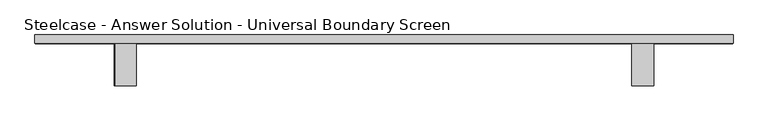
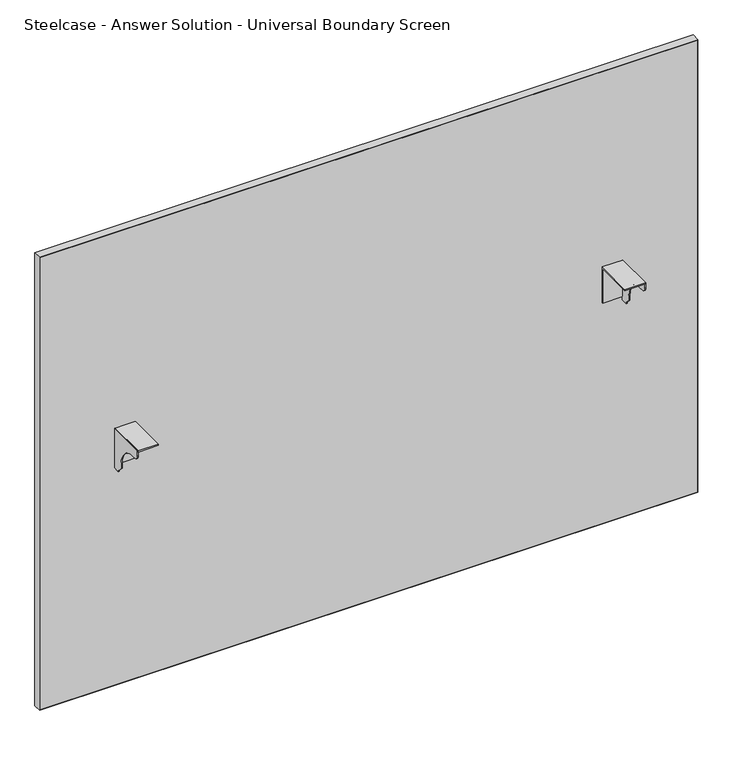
"""IFC4 building model written with IfcOpenShell, lengths in millimetres: furniture geometry, Steelcase - Answer Solution - Universal Boundary Screen : 48H x 66W."""

import ifcopenshell
import ifcopenshell.guid

model = None  # the IFC model being written
_history = None  # IfcOwnerHistory: only IFC2X3 demands one
_inside = {}  # id of a spatial element -> (the spatial element, [elements in it])
_under = {}  # id of a project, library or spatial element -> (it, [spatial elements below it])
_declared = {}  # id of a project -> (the project, [libraries it declares])
_typed = {}  # id of a type object -> (the type object, [elements of that type])
_made_of = {}  # id of a material, layer set ... -> (it, [elements and type objects made of it])


def new_model(schema):
    """Start an empty IFC model of exactly this schema.

    Asked for "IFC4X3", IfcOpenShell would pick the latest addendum, in which some entities
    have other attributes; the version numbers below select the first issue.
    IFC2X3 requires an IfcOwnerHistory on every rooted entity: one is made here for all.
    """
    global model, _history
    if schema == "IFC4X3":
        model = ifcopenshell.file(schema_version=(4, 3, 0, 0))
    else:
        model = ifcopenshell.file(schema=schema)
    _inside.clear()
    _under.clear()
    _declared.clear()
    _typed.clear()
    _made_of.clear()
    _history = None
    if model.schema == "IFC2X3":
        org = make("IfcOrganization", Name="unknown")
        user = make(
            "IfcPersonAndOrganization",
            ThePerson=make("IfcPerson", FamilyName="unknown"),
            TheOrganization=org,
        )
        app = make(
            "IfcApplication",
            ApplicationDeveloper=org,
            Version="unknown",
            ApplicationFullName="unknown",
            ApplicationIdentifier="unknown",
        )
        _history = make(
            "IfcOwnerHistory",
            OwningUser=user,
            OwningApplication=app,
            ChangeAction="ADDED",
            CreationDate=0,
        )
    return model


def make(cls, **values):
    """One entity of the class cls with the attributes given. An attribute that is None is left unset."""
    return model.create_entity(
        cls, **{name: value for name, value in values.items() if value is not None}
    )


def rooted(cls, **values):
    """An entity with a GlobalId (a new one), such as an element, a storey or a relation."""
    return make(cls, GlobalId=ifcopenshell.guid.new(), OwnerHistory=_history, **values)


def si_unit(unit_type, name, prefix=None):
    """IfcSIUnit, for example si_unit("LENGTHUNIT", "METRE", prefix="MILLI")."""
    return make("IfcSIUnit", UnitType=unit_type, Prefix=prefix, Name=name)


def assignment(units):
    """IfcUnitAssignment: the units of a project."""
    return None if units is None else make("IfcUnitAssignment", Units=units)


def point(xyz):
    """IfcCartesianPoint."""
    return None if xyz is None else make("IfcCartesianPoint", Coordinates=xyz)


def direction(xyz):
    """IfcDirection."""
    return None if xyz is None else make("IfcDirection", DirectionRatios=xyz)


def frame(location, z_axis=None, x_axis=None):
    """IfcAxis2Placement3D, a coordinate frame: its origin and axes. An axis left out is left unset."""
    return make(
        "IfcAxis2Placement3D",
        Location=point(location),
        Axis=direction(z_axis),
        RefDirection=direction(x_axis),
    )


def frame_2d(location, x_axis=None):
    """IfcAxis2Placement2D, a coordinate frame in the plane: its origin and x axis."""
    return make(
        "IfcAxis2Placement2D", Location=point(location), RefDirection=direction(x_axis)
    )


def origin():
    """The frame at (0, 0, 0) with its axes left unset."""
    return frame((0.0, 0.0, 0.0))


def place(relative_to, where):
    """IfcLocalPlacement: puts the frame where relative to a parent placement (None: the world)."""
    return make(
        "IfcLocalPlacement", PlacementRelTo=relative_to, RelativePlacement=where
    )


def context(
    kind, dimensions, precision=None, world=None, true_north=None, identifier=None
):
    """IfcGeometricRepresentationContext, for example the 3D "Model" context."""
    return make(
        "IfcGeometricRepresentationContext",
        ContextIdentifier=identifier,
        ContextType=kind,
        CoordinateSpaceDimension=dimensions,
        Precision=precision,
        WorldCoordinateSystem=world,
        TrueNorth=true_north,
    )


def project(units=None, contexts=None):
    """IfcProject with its units and contexts."""
    return rooted(
        "IfcProject",
        Name="project",
        RepresentationContexts=contexts,
        UnitsInContext=assignment(units),
    )


def spatial(cls, under=None, at=None, **own):
    """A site, building, storey or space (cls), placed at a placement, below another one or the project."""
    s = rooted(cls, ObjectPlacement=at, **own)
    if under is not None:
        _under.setdefault(under.id(), (under, []))[1].append(s)
    return s


def polyline(points):
    """IfcPolyline through the points."""
    return make("IfcPolyline", Points=[point(p) for p in points])


def circle_curve(where, radius):
    """IfcCircle in the frame where."""
    return make("IfcCircle", Position=where, Radius=radius)


def trimmed(basis, trim1, trim2, sense, master):
    """IfcTrimmedCurve: the piece of a basis curve between two trims."""
    return make(
        "IfcTrimmedCurve",
        BasisCurve=basis,
        Trim1=trim1,
        Trim2=trim2,
        SenseAgreement=sense,
        MasterRepresentation=master,
    )


def segment(curve, same_sense, transition):
    """IfcCompositeCurveSegment."""
    return make(
        "IfcCompositeCurveSegment",
        Transition=transition,
        SameSense=same_sense,
        ParentCurve=curve,
    )


def composite_curve(segments, self_intersect=None):
    """IfcCompositeCurve: segments joined end to end."""
    return make("IfcCompositeCurve", Segments=segments, SelfIntersect=self_intersect)


def outline(outer, holes=None, kind="AREA"):
    """IfcArbitraryClosedProfileDef: a profile drawn as a closed curve; with holes, ...WithVoids."""
    if holes is None:
        return make("IfcArbitraryClosedProfileDef", ProfileType=kind, OuterCurve=outer)
    return make(
        "IfcArbitraryProfileDefWithVoids",
        ProfileType=kind,
        OuterCurve=outer,
        InnerCurves=holes,
    )


def extrude(swept, where, along, depth):
    """IfcExtrudedAreaSolid: the profile swept, set in the frame where, extruded along a direction by depth."""
    return make(
        "IfcExtrudedAreaSolid",
        SweptArea=swept,
        Position=where,
        ExtrudedDirection=direction(along),
        Depth=depth,
    )


def shape(context_of_items, identifier, shape_type, items):
    """IfcShapeRepresentation: the items that make up one representation, for example the "Body"."""
    return make(
        "IfcShapeRepresentation",
        ContextOfItems=context_of_items,
        RepresentationIdentifier=identifier,
        RepresentationType=shape_type,
        Items=items,
    )


def source(mapping_origin, context_of_items, identifier, shape_type, items):
    """IfcRepresentationMap: a shape defined once, which mapped items show again and again."""
    return make(
        "IfcRepresentationMap",
        MappingOrigin=mapping_origin,
        MappedRepresentation=shape(context_of_items, identifier, shape_type, items),
    )


def transform(
    local_origin,
    x_axis=None,
    y_axis=None,
    z_axis=None,
    scale=None,
    scale2=None,
    scale3=None,
    uniform=True,
):
    """IfcCartesianTransformationOperator3D, or its non-uniform kind. x_axis, y_axis, z_axis: its Axis1, 2, 3."""
    if uniform:
        return make(
            "IfcCartesianTransformationOperator3D",
            Axis1=direction(x_axis),
            Axis2=direction(y_axis),
            LocalOrigin=point(local_origin),
            Scale=scale,
            Axis3=direction(z_axis),
        )
    return make(
        "IfcCartesianTransformationOperator3DnonUniform",
        Axis1=direction(x_axis),
        Axis2=direction(y_axis),
        LocalOrigin=point(local_origin),
        Scale=scale,
        Axis3=direction(z_axis),
        Scale2=scale2,
        Scale3=scale3,
    )


def mapped(mapping_source, mapping_target):
    """IfcMappedItem: shows the shape of a source again, moved by a transform."""
    return make(
        "IfcMappedItem", MappingSource=mapping_source, MappingTarget=mapping_target
    )


def made_of(thing, what):
    """Note that an element or type object is made of a material, layer set ...; save() writes the relation."""
    if what is not None:
        _made_of.setdefault(what.id(), (what, []))[1].append(thing)
    return thing


def element(
    cls,
    number,
    at=None,
    inside=None,
    cuts=None,
    type_object=None,
    material=None,
    context=None,
    identifier="Body",
    shape_type=None,
    held_by="IfcProductDefinitionShape",
    body=None,
    shapes=None,
    **own,
):
    """One element of the class cls, such as IfcWall. Its Tag is "e" and its number.

    at: its placement. inside: the storey or other place that contains it. cuts: it is an
    opening in that element (IfcRelVoidsElement). A single representation is given by context,
    identifier, shape_type and body (its items); several are given by shapes. held_by: the class
    of the entity that holds the representations. save() writes the other relations.
    """
    e = rooted(cls, Tag="e%d" % number, ObjectPlacement=at, **own)
    if body is not None:
        shapes = [shape(context, identifier, shape_type, body)]
    if shapes is not None:
        e.Representation = make(held_by, Representations=shapes)
    if inside is not None:
        _inside.setdefault(inside.id(), (inside, []))[1].append(e)
    if cuts is not None:
        rooted(
            "IfcRelVoidsElement", RelatingBuildingElement=cuts, RelatedOpeningElement=e
        )
    if type_object is not None:
        _typed.setdefault(type_object.id(), (type_object, []))[1].append(e)
    return made_of(e, material)


def aggregate(whole, parts):
    """IfcRelAggregates: a whole, such as a stair, and the parts it consists of."""
    return rooted("IfcRelAggregates", RelatingObject=whole, RelatedObjects=parts)


def save(model, path):
    """Write the relations noted so far, then the file.

    IfcRelAggregates (storeys below a building ...), IfcRelContainedInSpatialStructure (elements
    in a storey), IfcRelDefinesByType, IfcRelAssociatesMaterial and IfcRelDeclares: one each for
    every whole, place, type object, material and project.
    """
    for whole, parts in _under.values():
        aggregate(whole, parts)
    for where, things in _inside.values():
        rooted(
            "IfcRelContainedInSpatialStructure",
            RelatedElements=things,
            RelatingStructure=where,
        )
    for kind, things in _typed.values():
        rooted("IfcRelDefinesByType", RelatedObjects=things, RelatingType=kind)
    for what, things in _made_of.values():
        rooted("IfcRelAssociatesMaterial", RelatedObjects=things, RelatingMaterial=what)
    for by, libraries in _declared.values():
        rooted("IfcRelDeclares", RelatingContext=by, RelatedDefinitions=libraries)
    model.write(path)


def steelcase_answer_solution_universal_boundary_screen_eb9aadaf(model_context):
    return source(origin(), model_context, "Body", "SweptSolid", [
        extrude(outline(polyline([(-103.1670434, 689.3558876), (-103.1670434, 692.1499758), (-1.5668826, 692.1499758), (-1.5668826, 595.5029317), (-4.1079736, 595.5029317), (-4.1079736, 689.3558876), (-103.1670434, 689.3558876)])), frame((1124.4336711, 0.0, 0.0), z_axis=(1.0, 0.0, 0.0), x_axis=(0.0, 1.0, 0.0)), (0.0, 0.0, 1.0), 53.3444116),
        extrude(outline(composite_curve([segment(polyline([(-103.1670434, 679.2814802), (-103.1670434, 692.1499758), (-1.5668826, 692.1499758), (-1.5668826, 586.9634093), (-19.8232934, 586.9634093), (-19.8232934, 589.7574248), (-32.0458032, 601.9799346), (-32.0458032, 615.7814802)]), True, "CONTINUOUS"), segment(trimmed(circle_curve(frame_2d((-82.8458032, 615.7814802)), 50.8), [point((-32.0458032, 615.7814802))], [point((-82.8458032, 666.5814802))], True, "CARTESIAN"), True, "CONTINUOUS"), segment(polyline([(-82.8458032, 666.5814802), (-90.4670434, 666.5814802)]), True, "CONTINUOUS"), segment(trimmed(circle_curve(frame_2d((-90.4670434, 679.2814802)), 12.7), [point((-90.4670434, 666.5814802))], [point((-103.1670434, 679.2814802))], False, "CARTESIAN"), True, "CONTINUOUS")], self_intersect=False)), frame((1175.2328959, 0.0, 0.0), z_axis=(1.0, 0.0, 0.0), x_axis=(0.0, 1.0, 0.0)), (0.0, 0.0, 1.0), 2.5451868),
        extrude(outline(polyline([(-103.1670434, 689.3558876), (-103.1670434, 692.1499758), (-1.5668826, 692.1499758), (-1.5668826, 595.5029317), (-4.1079736, 595.5029317), (-4.1079736, 689.3558876), (-103.1670434, 689.3558876)])), frame((-115.0767306, 0.0, 0.0), z_axis=(1.0, 0.0, 0.0), x_axis=(0.0, 1.0, 0.0)), (0.0, 0.0, 1.0), 50.7992249),
        extrude(outline(composite_curve([segment(polyline([(-103.1670434, 679.2814802), (-103.1670434, 692.1499758), (-1.5668826, 692.1499758), (-1.5668826, 586.9634093), (-19.8232934, 586.9634093), (-19.8232934, 589.7574248), (-32.0458032, 601.9799346), (-32.0458032, 615.7814802)]), True, "CONTINUOUS"), segment(trimmed(circle_curve(frame_2d((-82.8458032, 615.7814802)), 50.8), [point((-32.0458032, 615.7814802))], [point((-82.8458032, 666.5814802))], True, "CARTESIAN"), True, "CONTINUOUS"), segment(polyline([(-82.8458032, 666.5814802), (-90.4670434, 666.5814802)]), True, "CONTINUOUS"), segment(trimmed(circle_curve(frame_2d((-90.4670434, 679.2814802)), 12.7), [point((-90.4670434, 666.5814802))], [point((-103.1670434, 679.2814802))], False, "CARTESIAN"), True, "CONTINUOUS")], self_intersect=False)), frame((-117.6219173, 0.0, 0.0), z_axis=(1.0, 0.0, 0.0), x_axis=(0.0, 1.0, 0.0)), (0.0, 0.0, 1.0), 2.5451868),
        extrude(outline(polyline([(-307.1293422, 18.9055112), (1367.2855076, 18.9055112), (1367.2855076, -1.5668826), (-307.1293422, -1.5668826), (-307.1293422, 18.9055112)])), frame((0.0, 0.0, 1.016), z_axis=(0.0, 0.0, 1.0), x_axis=(1.0, 0.0, 0.0)), (0.0, 0.0, 1.0), 1217.1914249),
        extrude(outline(polyline([(1219.2, 1368.2780827), (1219.2, -308.1219173), (0.0, -308.1219173), (0.0, 1368.2780827), (1219.2, 1368.2780827)]), holes=[polyline([(1218.2074249, 1367.2855076), (1.016, 1367.2855076), (1.016, -307.1293422), (1218.2074249, -307.1293422), (1218.2074249, 1367.2855076)])]), frame((0.0, -1.5668826, 0.0), z_axis=(0.0, 1.0, 0.0), x_axis=(0.0, 0.0, 1.0)), (0.0, 0.0, 1.0), 20.4723938),
    ])


if __name__ == "__main__":
    model = new_model("IFC4")
    model_context = context("Model", 3, world=origin())
    ifc_project = project(units=[si_unit("LENGTHUNIT", "METRE", prefix="MILLI")], contexts=[model_context])
    site = spatial("IfcSite", under=ifc_project)
    building = spatial("IfcBuilding", under=site)
    placement = place(None, origin())
    steelcase_answer_solution_universal_boundary_screen_shape = steelcase_answer_solution_universal_boundary_screen_eb9aadaf(model_context)
    element("IfcFurniture", 1, ObjectType="Steelcase - Answer Solution - Universal Boundary Screen : 48H x 66W", at=placement, inside=building, context=model_context, shape_type="MappedRepresentation", body=[
        mapped(steelcase_answer_solution_universal_boundary_screen_shape, transform((0.0, 0.0, 0.0), x_axis=(1.0, 0.0, 0.0), y_axis=(0.0, 1.0, 0.0), z_axis=(0.0, 0.0, 1.0))),
    ])
    save(model, "model.ifc")
